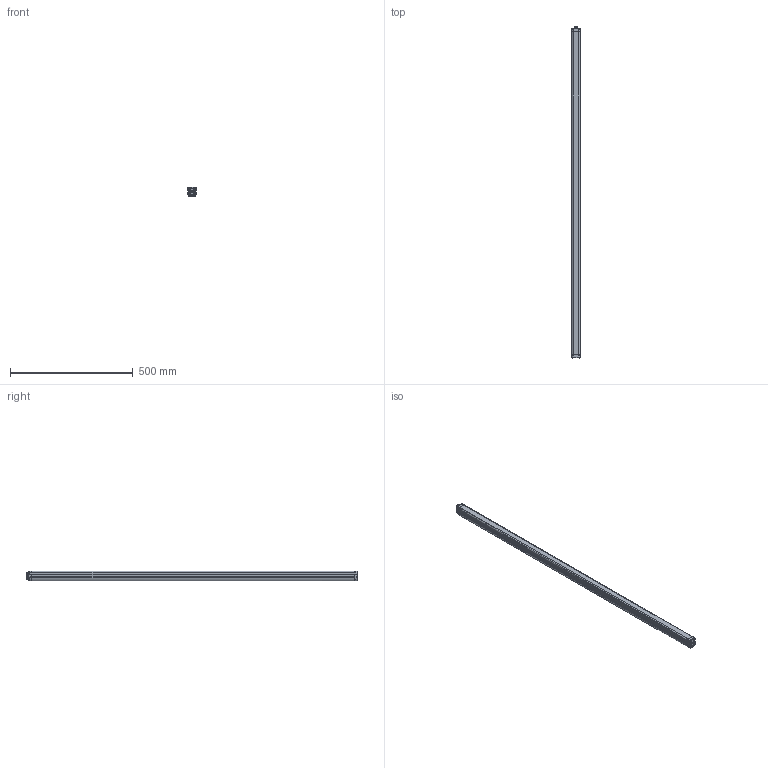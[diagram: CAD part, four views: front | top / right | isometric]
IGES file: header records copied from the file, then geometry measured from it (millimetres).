
Start section:  PTC IGES file: 2009980
Global section: file name: 2009980; native system: Pro/ENGINEER by Parametric Technology Corporation; preprocessor: 2011040; author: rink; organization: Unknown; date: 20120130.131933; units: millimetre
Bounding box: 35 x 1352.58 x 40 mm (x, y, z)
Surface area: 275822.7 mm2 (no closed solid volume)
Topology: 0 solids, 0 shells, 2508 faces, 13228 edges, 13054 vertices
Faces by surface type: revolution 1142, bspline 840, extrusion 526
